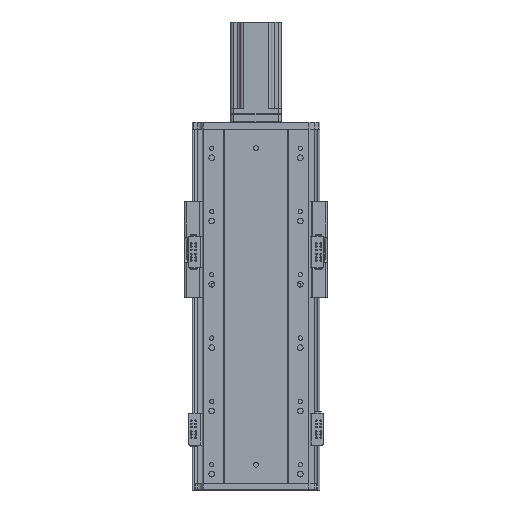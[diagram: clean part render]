
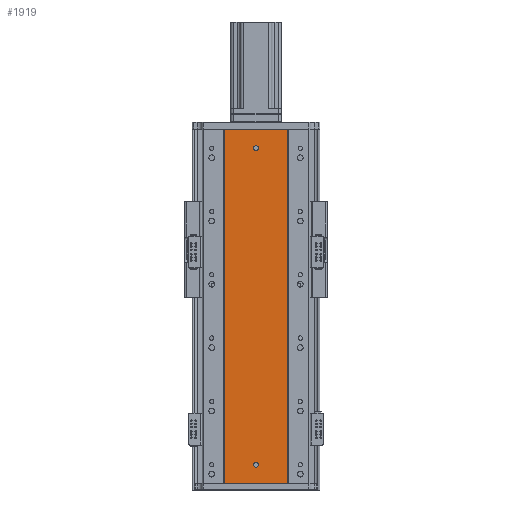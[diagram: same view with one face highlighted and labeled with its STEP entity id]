
A CAD part, front view. The second image highlights one B-rep face of the part: STEP entity #1919.
In plain terms, the highlighted planar face has unit normal (0, -1, 0).
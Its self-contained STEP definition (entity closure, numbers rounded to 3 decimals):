
#132 = B_SPLINE_CURVE_WITH_KNOTS ( 'NONE', 3,
 ( #11349, #11353, #11355, #11324 ),
 .UNSPECIFIED., .F., .F.,
 ( 4, 4 ),
 ( 0., 1. ),
 .UNSPECIFIED. ) ;
#140 = B_SPLINE_CURVE_WITH_KNOTS ( 'NONE', 3,
 ( #11554, #11538, #11534, #11539 ),
 .UNSPECIFIED., .F., .F.,
 ( 4, 4 ),
 ( 0., 1. ),
 .UNSPECIFIED. ) ;
#1919 = ADVANCED_FACE ( 'NONE', ( #29763, #29737, #29752 ), #27955, .F. ) ;
#2379 = DIRECTION ( 'NONE',  ( 0., -1., 0. ) ) ;
#2398 = CARTESIAN_POINT ( 'NONE',  ( 136.47, 79.476, 30. ) ) ;
#2399 = DIRECTION ( 'NONE',  ( 0., 0., -1. ) ) ;
#2505 = CARTESIAN_POINT ( 'NONE',  ( 136.47, 79.476, 530. ) ) ;
#2506 = DIRECTION ( 'NONE',  ( 0., -1., 0. ) ) ;
#2523 = DIRECTION ( 'NONE',  ( 0., 0., -1. ) ) ;
#6291 = CIRCLE ( 'NONE', #9038, 4. ) ;
#8479 = AXIS2_PLACEMENT_3D ( 'NONE', #11362, #11334, #11361 ) ;
#8486 = AXIS2_PLACEMENT_3D ( 'NONE', #11332, #11337, #11333 ) ;
#9027 = AXIS2_PLACEMENT_3D ( 'NONE', #2398, #2379, #2399 ) ;
#9038 = AXIS2_PLACEMENT_3D ( 'NONE', #2505, #2506, #2523 ) ;
#11324 = CARTESIAN_POINT ( 'NONE',  ( 86.97, 79.476, 0. ) ) ;
#11332 = CARTESIAN_POINT ( 'NONE',  ( 136.47, 79.476, 530. ) ) ;
#11333 = DIRECTION ( 'NONE',  ( 0., 0., -1. ) ) ;
#11334 = DIRECTION ( 'NONE',  ( 0., -1., 0. ) ) ;
#11337 = DIRECTION ( 'NONE',  ( 0., -1., 0. ) ) ;
#11349 = CARTESIAN_POINT ( 'NONE',  ( 86.97, 79.476, 560. ) ) ;
#11352 = CARTESIAN_POINT ( 'NONE',  ( 0., 79.476, 0. ) ) ;
#11353 = CARTESIAN_POINT ( 'NONE',  ( 86.97, 79.476, 373.333 ) ) ;
#11355 = CARTESIAN_POINT ( 'NONE',  ( 86.97, 79.476, 186.667 ) ) ;
#11361 = DIRECTION ( 'NONE',  ( 0., 0., -1. ) ) ;
#11362 = CARTESIAN_POINT ( 'NONE',  ( 136.47, 79.476, 30. ) ) ;
#11381 = CARTESIAN_POINT ( 'NONE',  ( 0., 79.476, 560. ) ) ;
#11384 = DIRECTION ( 'NONE',  ( 1., 0., 0. ) ) ;
#11396 = DIRECTION ( 'NONE',  ( 1., 0., 0. ) ) ;
#11534 = CARTESIAN_POINT ( 'NONE',  ( 185.97, 79.476, 186.667 ) ) ;
#11538 = CARTESIAN_POINT ( 'NONE',  ( 185.97, 79.476, 373.333 ) ) ;
#11539 = CARTESIAN_POINT ( 'NONE',  ( 185.97, 79.476, 0. ) ) ;
#11554 = CARTESIAN_POINT ( 'NONE',  ( 185.97, 79.476, 560. ) ) ;
#12412 = EDGE_LOOP ( 'NONE', ( #16305, #16312, #16331, #16283 ) ) ;
#12437 = EDGE_LOOP ( 'NONE', ( #16306, #16328 ) ) ;
#12448 = EDGE_LOOP ( 'NONE', ( #16275, #16307 ) ) ;
#15236 = EDGE_CURVE ( 'NONE', #26738, #26752, #17568, .T. ) ;
#15242 = EDGE_CURVE ( 'NONE', #26695, #26654, #17592, .T. ) ;
#15251 = EDGE_CURVE ( 'NONE', #26405, #26395, #132, .T. ) ;
#15252 = EDGE_CURVE ( 'NONE', #26395, #26398, #17586, .T. ) ;
#15270 = EDGE_CURVE ( 'NONE', #26405, #26441, #17760, .T. ) ;
#15334 = EDGE_CURVE ( 'NONE', #26441, #26398, #140, .T. ) ;
#16275 = ORIENTED_EDGE ( 'NONE', *, *, #15236, .F. ) ;
#16283 = ORIENTED_EDGE ( 'NONE', *, *, #15251, .T. ) ;
#16305 = ORIENTED_EDGE ( 'NONE', *, *, #15252, .T. ) ;
#16306 = ORIENTED_EDGE ( 'NONE', *, *, #15242, .F. ) ;
#16307 = ORIENTED_EDGE ( 'NONE', *, *, #20371, .F. ) ;
#16312 = ORIENTED_EDGE ( 'NONE', *, *, #15334, .F. ) ;
#16328 = ORIENTED_EDGE ( 'NONE', *, *, #20329, .F. ) ;
#16331 = ORIENTED_EDGE ( 'NONE', *, *, #15270, .F. ) ;
#17568 = CIRCLE ( 'NONE', #8486, 4. ) ;
#17586 = LINE ( 'NONE', #11352, #17610 ) ;
#17592 = CIRCLE ( 'NONE', #8479, 4. ) ;
#17610 = VECTOR ( 'NONE', #11396, 1000. ) ;
#17760 = LINE ( 'NONE', #11381, #17778 ) ;
#17778 = VECTOR ( 'NONE', #11384, 1000. ) ;
#20329 = EDGE_CURVE ( 'NONE', #26654, #26695, #35917, .T. ) ;
#20371 = EDGE_CURVE ( 'NONE', #26752, #26738, #6291, .T. ) ;
#21428 = AXIS2_PLACEMENT_3D ( 'NONE', #27911, #27928, #27959 ) ;
#26395 = VERTEX_POINT ( 'NONE', #34642 ) ;
#26398 = VERTEX_POINT ( 'NONE', #34672 ) ;
#26405 = VERTEX_POINT ( 'NONE', #34644 ) ;
#26441 = VERTEX_POINT ( 'NONE', #34707 ) ;
#26654 = VERTEX_POINT ( 'NONE', #34928 ) ;
#26695 = VERTEX_POINT ( 'NONE', #34991 ) ;
#26738 = VERTEX_POINT ( 'NONE', #34972 ) ;
#26752 = VERTEX_POINT ( 'NONE', #35027 ) ;
#27911 = CARTESIAN_POINT ( 'NONE',  ( 0., 79.476, 560. ) ) ;
#27928 = DIRECTION ( 'NONE',  ( 0., 1., 0. ) ) ;
#27955 = PLANE ( 'NONE',  #21428 ) ;
#27959 = DIRECTION ( 'NONE',  ( 0., 0., 1. ) ) ;
#29737 = FACE_BOUND ( 'NONE', #12437, .T. ) ;
#29752 = FACE_OUTER_BOUND ( 'NONE', #12412, .T. ) ;
#29763 = FACE_BOUND ( 'NONE', #12448, .T. ) ;
#34642 = CARTESIAN_POINT ( 'NONE',  ( 86.97, 79.476, 0. ) ) ;
#34644 = CARTESIAN_POINT ( 'NONE',  ( 86.97, 79.476, 560. ) ) ;
#34672 = CARTESIAN_POINT ( 'NONE',  ( 185.97, 79.476, 0. ) ) ;
#34707 = CARTESIAN_POINT ( 'NONE',  ( 185.97, 79.476, 560. ) ) ;
#34928 = CARTESIAN_POINT ( 'NONE',  ( 136.47, 79.476, 34. ) ) ;
#34972 = CARTESIAN_POINT ( 'NONE',  ( 136.47, 79.476, 526. ) ) ;
#34991 = CARTESIAN_POINT ( 'NONE',  ( 136.47, 79.476, 26. ) ) ;
#35027 = CARTESIAN_POINT ( 'NONE',  ( 136.47, 79.476, 534. ) ) ;
#35917 = CIRCLE ( 'NONE', #9027, 4. ) ;
